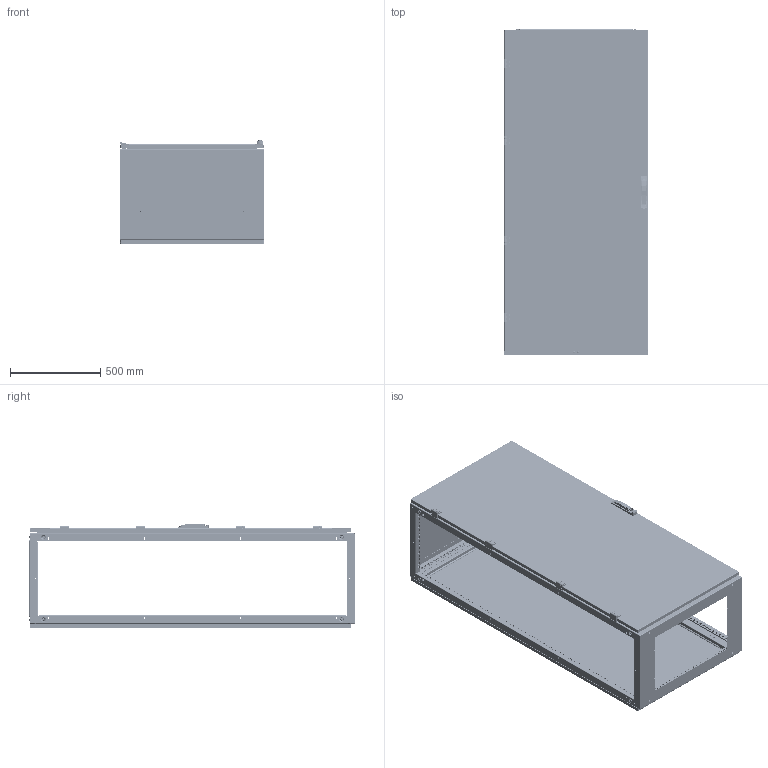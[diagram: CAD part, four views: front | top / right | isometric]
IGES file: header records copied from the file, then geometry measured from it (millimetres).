
Start section: SolidWorks IGES file using analytic representation for surfaces
Global section: file name: U:\14_RD\05_Technical_office\04_Office\Hrdinova\3D modely - IGES\Distri\QA180805.IGS; native system: SolidWorks 2011; preprocessor: SolidWorks 2011; author: adhrja3; date: 170612.082253; units: millimetre
Bounding box: 800 x 1804.5 x 576 mm (x, y, z)
Surface area: 11788517.7 mm2 (no closed solid volume)
Topology: 0 solids, 0 shells, 6436 faces, 107718 edges, 107538 vertices
Faces by surface type: bspline 3620, revolution 2816
